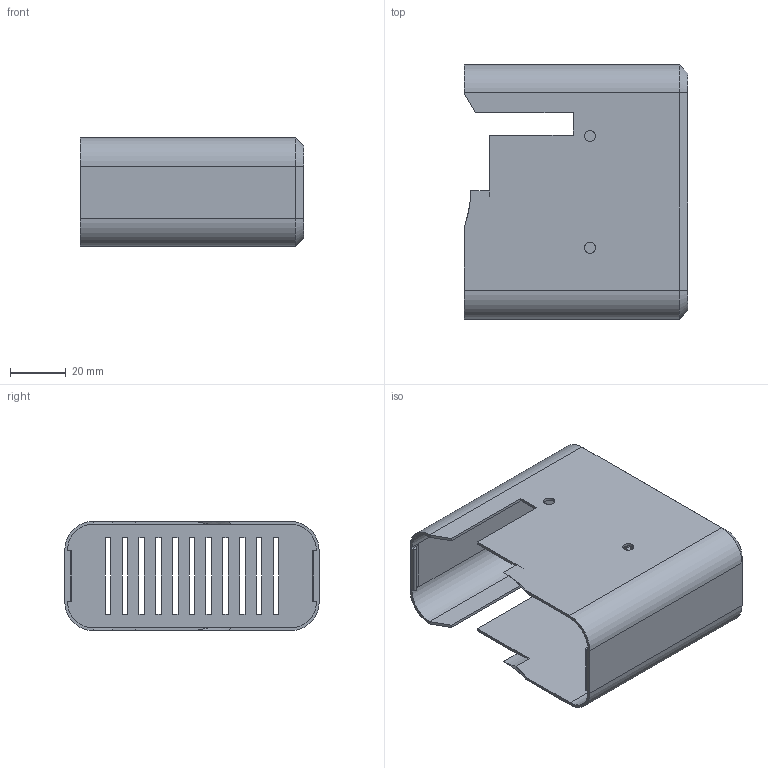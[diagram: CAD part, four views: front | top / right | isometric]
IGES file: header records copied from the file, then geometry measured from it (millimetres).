
Start section: START RECORD GO HERE.
Global section: file name: TAPA_BASE_MAIN.igs; native system: DASSAULT SYSTEMES CATIA V5 R21 - www.3ds.com; preprocessor: CATIA Version 5 Release 21 ; author: luisg; organization: DESKTOP-0B5R3KV; date: 20241124.231228; units: millimetre
Bounding box: 80 x 91 x 39 mm (x, y, z)
Surface area: 42333.2 mm2 (no closed solid volume)
Topology: 0 solids, 0 shells, 104 faces, 596 edges, 596 vertices
Faces by surface type: plane 82, revolution 22
